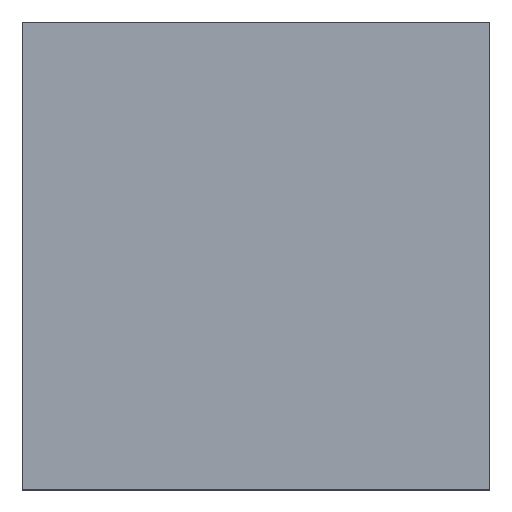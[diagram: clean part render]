
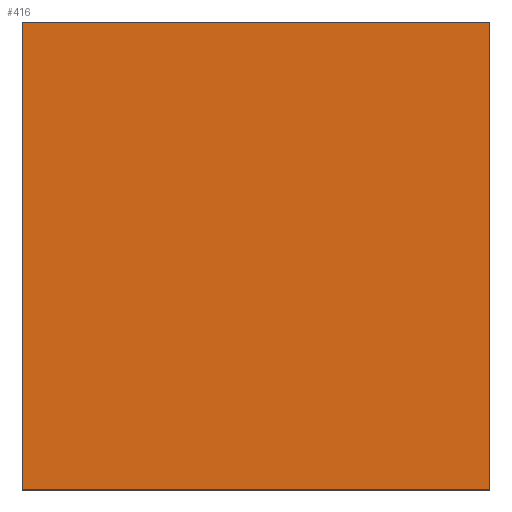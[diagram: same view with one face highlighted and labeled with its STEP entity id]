
A CAD part, top view. The second image highlights one B-rep face of the part: STEP entity #416.
In plain terms, the highlighted planar face has unit normal (0, 0, 1).
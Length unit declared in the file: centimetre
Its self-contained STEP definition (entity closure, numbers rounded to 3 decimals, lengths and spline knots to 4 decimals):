
#31 = LINE ( 'NONE', #367, #378 ) ;
#50 = FACE_OUTER_BOUND ( 'NONE', #387, .T. ) ;
#63 = ORIENTED_EDGE ( 'NONE', *, *, #92, .T. ) ;
#68 = ORIENTED_EDGE ( 'NONE', *, *, #185, .T. ) ;
#92 = EDGE_CURVE ( 'NONE', #548, #491, #611, .T. ) ;
#122 = ORIENTED_EDGE ( 'NONE', *, *, #543, .T. ) ;
#137 = VECTOR ( 'NONE', #425, 100. ) ;
#157 = ORIENTED_EDGE ( 'NONE', *, *, #565, .T. ) ;
#185 = EDGE_CURVE ( 'NONE', #524, #393, #31, .T. ) ;
#192 = DIRECTION ( 'NONE',  ( 1., 0., 0. ) ) ;
#213 = VECTOR ( 'NONE', #405, 100. ) ;
#232 = LINE ( 'NONE', #347, #277 ) ;
#233 = CARTESIAN_POINT ( 'NONE',  ( 0., 0., 1000. ) ) ;
#273 = CARTESIAN_POINT ( 'NONE',  ( 0., 1000., 1000. ) ) ;
#277 = VECTOR ( 'NONE', #532, 100. ) ;
#280 = CARTESIAN_POINT ( 'NONE',  ( 0., 1000., 1000. ) ) ;
#284 = CARTESIAN_POINT ( 'NONE',  ( 1000., 0., 1000. ) ) ;
#321 = DIRECTION ( 'NONE',  ( 0., 1., 0. ) ) ;
#336 = DIRECTION ( 'NONE',  ( 0., 0., 1. ) ) ;
#347 = CARTESIAN_POINT ( 'NONE',  ( 0., 0., 1000. ) ) ;
#367 = CARTESIAN_POINT ( 'NONE',  ( 1000., 1000., 1000. ) ) ;
#378 = VECTOR ( 'NONE', #321, 100. ) ;
#387 = EDGE_LOOP ( 'NONE', ( #63, #157, #68, #122 ) ) ;
#393 = VERTEX_POINT ( 'NONE', #409 ) ;
#405 = DIRECTION ( 'NONE',  ( 0., -1., 0. ) ) ;
#409 = CARTESIAN_POINT ( 'NONE',  ( 1000., 1000., 1000. ) ) ;
#416 = ADVANCED_FACE ( 'NONE', ( #50 ), #566, .T. ) ;
#425 = DIRECTION ( 'NONE',  ( -1., 0., 0. ) ) ;
#491 = VERTEX_POINT ( 'NONE', #507 ) ;
#507 = CARTESIAN_POINT ( 'NONE',  ( 0., 0., 1000. ) ) ;
#511 = LINE ( 'NONE', #280, #137 ) ;
#524 = VERTEX_POINT ( 'NONE', #284 ) ;
#532 = DIRECTION ( 'NONE',  ( 1., 0., 0. ) ) ;
#543 = EDGE_CURVE ( 'NONE', #393, #548, #511, .T. ) ;
#548 = VERTEX_POINT ( 'NONE', #273 ) ;
#565 = EDGE_CURVE ( 'NONE', #491, #524, #232, .T. ) ;
#566 = PLANE ( 'NONE',  #579 ) ;
#579 = AXIS2_PLACEMENT_3D ( 'NONE', #233, #336, #192 ) ;
#604 = CARTESIAN_POINT ( 'NONE',  ( 0., 1000., 1000. ) ) ;
#611 = LINE ( 'NONE', #604, #213 ) ;
